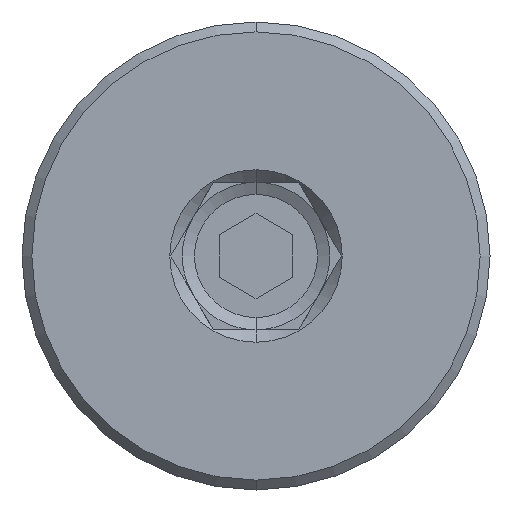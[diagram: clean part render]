
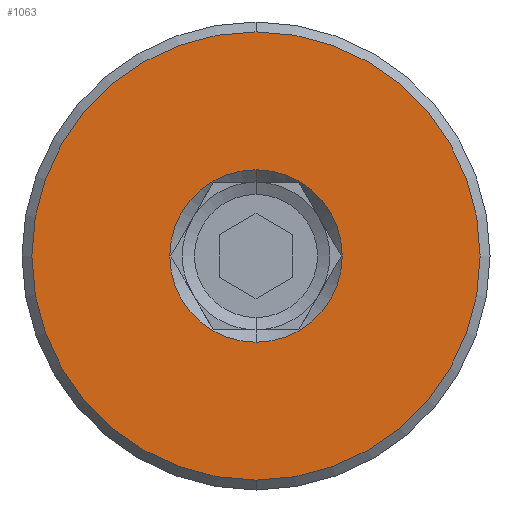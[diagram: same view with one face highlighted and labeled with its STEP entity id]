
A CAD part, front view. The second image highlights one B-rep face of the part: STEP entity #1063.
In plain terms, the highlighted planar face has unit normal (0, -1, 0).
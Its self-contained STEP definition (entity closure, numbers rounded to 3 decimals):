
#9 = AXIS2_PLACEMENT_3D ( 'NONE', #1640, #827, #1773 ) ;
#107 = ORIENTED_EDGE ( 'NONE', *, *, #348, .F. ) ;
#166 = EDGE_LOOP ( 'NONE', ( #1272, #107 ) ) ;
#189 = DIRECTION ( 'NONE',  ( 0., 0., -1. ) ) ;
#256 = EDGE_LOOP ( 'NONE', ( #407, #1098 ) ) ;
#275 = CARTESIAN_POINT ( 'NONE',  ( 0., 0., 3.5 ) ) ;
#302 = CIRCLE ( 'NONE', #1604, 9.1 ) ;
#306 = EDGE_CURVE ( 'NONE', #475, #1558, #1501, .T. ) ;
#348 = EDGE_CURVE ( 'NONE', #1558, #475, #1142, .T. ) ;
#356 = DIRECTION ( 'NONE',  ( 0., 0., -1. ) ) ;
#407 = ORIENTED_EDGE ( 'NONE', *, *, #1549, .T. ) ;
#416 = CARTESIAN_POINT ( 'NONE',  ( 0., 0., 0. ) ) ;
#440 = DIRECTION ( 'NONE',  ( 0., 0., -1. ) ) ;
#475 = VERTEX_POINT ( 'NONE', #854 ) ;
#476 = FACE_BOUND ( 'NONE', #166, .T. ) ;
#553 = DIRECTION ( 'NONE',  ( 0., 0., -1. ) ) ;
#593 = DIRECTION ( 'NONE',  ( 0., -1., 0. ) ) ;
#632 = CARTESIAN_POINT ( 'NONE',  ( 0., 0., -9.1 ) ) ;
#715 = VERTEX_POINT ( 'NONE', #632 ) ;
#827 = DIRECTION ( 'NONE',  ( 0., -1., 0. ) ) ;
#854 = CARTESIAN_POINT ( 'NONE',  ( 0., 0., -3.5 ) ) ;
#889 = CARTESIAN_POINT ( 'NONE',  ( 0., 0., 0. ) ) ;
#911 = EDGE_CURVE ( 'NONE', #715, #1326, #1079, .T. ) ;
#925 = CARTESIAN_POINT ( 'NONE',  ( 0., 0., 9.1 ) ) ;
#1001 = CARTESIAN_POINT ( 'NONE',  ( 3.5, 0., 0. ) ) ;
#1063 = ADVANCED_FACE ( 'NONE', ( #1584, #476 ), #1669, .T. ) ;
#1079 = CIRCLE ( 'NONE', #9, 9.1 ) ;
#1098 = ORIENTED_EDGE ( 'NONE', *, *, #911, .T. ) ;
#1142 = CIRCLE ( 'NONE', #1353, 3.5 ) ;
#1255 = AXIS2_PLACEMENT_3D ( 'NONE', #1548, #1336, #356 ) ;
#1270 = DIRECTION ( 'NONE',  ( 0., -1., 0. ) ) ;
#1272 = ORIENTED_EDGE ( 'NONE', *, *, #306, .F. ) ;
#1307 = AXIS2_PLACEMENT_3D ( 'NONE', #1001, #1270, #440 ) ;
#1326 = VERTEX_POINT ( 'NONE', #925 ) ;
#1336 = DIRECTION ( 'NONE',  ( 0., -1., 0. ) ) ;
#1353 = AXIS2_PLACEMENT_3D ( 'NONE', #889, #593, #189 ) ;
#1382 = DIRECTION ( 'NONE',  ( 0., -1., 0. ) ) ;
#1501 = CIRCLE ( 'NONE', #1255, 3.5 ) ;
#1548 = CARTESIAN_POINT ( 'NONE',  ( 0., 0., 0. ) ) ;
#1549 = EDGE_CURVE ( 'NONE', #1326, #715, #302, .T. ) ;
#1558 = VERTEX_POINT ( 'NONE', #275 ) ;
#1584 = FACE_OUTER_BOUND ( 'NONE', #256, .T. ) ;
#1604 = AXIS2_PLACEMENT_3D ( 'NONE', #416, #1382, #553 ) ;
#1640 = CARTESIAN_POINT ( 'NONE',  ( 0., 0., 0. ) ) ;
#1669 = PLANE ( 'NONE',  #1307 ) ;
#1773 = DIRECTION ( 'NONE',  ( 0., 0., -1. ) ) ;
